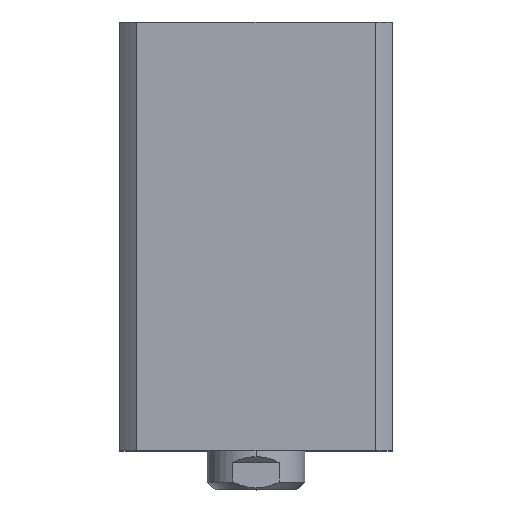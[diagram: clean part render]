
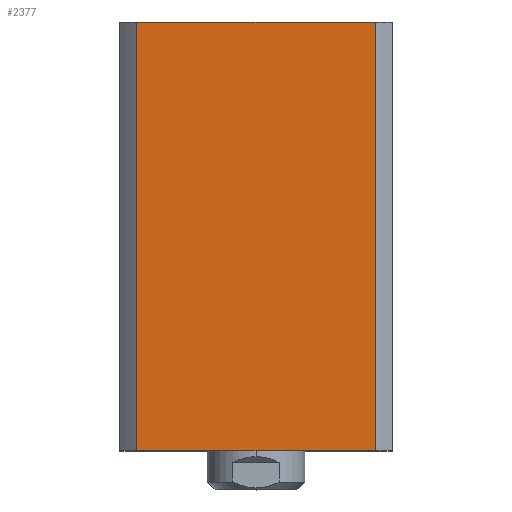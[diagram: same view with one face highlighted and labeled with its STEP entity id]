
A CAD part, top view. The second image highlights one B-rep face of the part: STEP entity #2377.
In plain terms, the highlighted planar face has unit normal (0, 0, 1) as drawn and (1, 0, 0) by its records, which use the part's own axes.
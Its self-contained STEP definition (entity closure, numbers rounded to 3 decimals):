
#117 = CARTESIAN_POINT ( 'NONE',  ( 35., -30.615, 300. ) ) ;
#336 = EDGE_CURVE ( 'NONE', #606, #3346, #8643, .T. ) ;
#391 = DIRECTION ( 'NONE',  ( 0., 1., 0. ) ) ;
#412 = ORIENTED_EDGE ( 'NONE', *, *, #2572, .F. ) ;
#606 = VERTEX_POINT ( 'NONE', #8243 ) ;
#822 = VECTOR ( 'NONE', #7424, 1000. ) ;
#848 = VECTOR ( 'NONE', #9009, 1000. ) ;
#889 = DIRECTION ( 'NONE',  ( 0., 0., 1. ) ) ;
#1203 = CARTESIAN_POINT ( 'NONE',  ( 35., 35., 0. ) ) ;
#1300 = CARTESIAN_POINT ( 'NONE',  ( 35., 35., 110. ) ) ;
#1948 = VECTOR ( 'NONE', #391, 1000. ) ;
#2255 = DIRECTION ( 'NONE',  ( -1., 0., 0. ) ) ;
#2258 = EDGE_CURVE ( 'NONE', #5534, #606, #8208, .T. ) ;
#2377 = ADVANCED_FACE ( 'NONE', ( #3562 ), #9191, .F. ) ;
#2572 = EDGE_CURVE ( 'NONE', #6313, #5534, #6755, .T. ) ;
#2939 = EDGE_CURVE ( 'NONE', #6313, #3346, #3209, .T. ) ;
#3147 = ORIENTED_EDGE ( 'NONE', *, *, #2258, .F. ) ;
#3180 = AXIS2_PLACEMENT_3D ( 'NONE', #1300, #2255, #7741 ) ;
#3209 = LINE ( 'NONE', #1203, #848 ) ;
#3346 = VERTEX_POINT ( 'NONE', #3857 ) ;
#3554 = CARTESIAN_POINT ( 'NONE',  ( 35., 35., 110. ) ) ;
#3562 = FACE_OUTER_BOUND ( 'NONE', #6508, .T. ) ;
#3857 = CARTESIAN_POINT ( 'NONE',  ( 35., 30.615, 0. ) ) ;
#4414 = VECTOR ( 'NONE', #889, 1000. ) ;
#5534 = VERTEX_POINT ( 'NONE', #5674 ) ;
#5674 = CARTESIAN_POINT ( 'NONE',  ( 35., -30.615, 110. ) ) ;
#5896 = CARTESIAN_POINT ( 'NONE',  ( 35., 30.615, 300. ) ) ;
#6313 = VERTEX_POINT ( 'NONE', #8879 ) ;
#6331 = ORIENTED_EDGE ( 'NONE', *, *, #2939, .T. ) ;
#6508 = EDGE_LOOP ( 'NONE', ( #7916, #3147, #412, #6331 ) ) ;
#6755 = LINE ( 'NONE', #117, #4414 ) ;
#7424 = DIRECTION ( 'NONE',  ( 0., 0., -1. ) ) ;
#7741 = DIRECTION ( 'NONE',  ( 0., 0., 1. ) ) ;
#7916 = ORIENTED_EDGE ( 'NONE', *, *, #336, .F. ) ;
#8208 = LINE ( 'NONE', #3554, #1948 ) ;
#8243 = CARTESIAN_POINT ( 'NONE',  ( 35., 30.615, 110. ) ) ;
#8643 = LINE ( 'NONE', #5896, #822 ) ;
#8879 = CARTESIAN_POINT ( 'NONE',  ( 35., -30.615, 0. ) ) ;
#9009 = DIRECTION ( 'NONE',  ( 0., 1., 0. ) ) ;
#9191 = PLANE ( 'NONE',  #3180 ) ;
